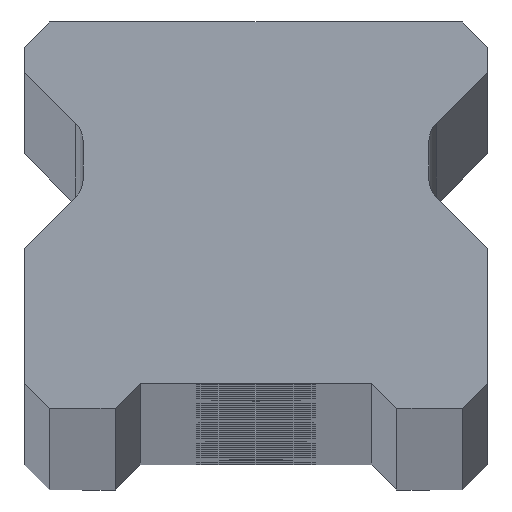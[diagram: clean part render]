
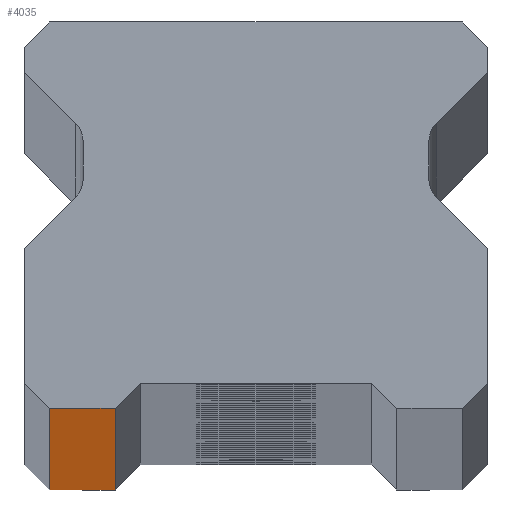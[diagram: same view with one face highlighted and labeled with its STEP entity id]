
A CAD part, top view. The second image highlights one B-rep face of the part: STEP entity #4035.
In plain terms, the highlighted planar face has unit normal (0, -1, 0).
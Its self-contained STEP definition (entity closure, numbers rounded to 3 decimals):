
#103 = LINE ( 'NONE', #6727, #3410 ) ;
#140 = AXIS2_PLACEMENT_3D ( 'NONE', #7231, #3501, #5404 ) ;
#248 = ORIENTED_EDGE ( 'NONE', *, *, #1485, .T. ) ;
#576 = CARTESIAN_POINT ( 'NONE',  ( 11.5, 0., -1160. ) ) ;
#764 = VERTEX_POINT ( 'NONE', #1985 ) ;
#1414 = VERTEX_POINT ( 'NONE', #7947 ) ;
#1485 = EDGE_CURVE ( 'NONE', #5579, #764, #103, .T. ) ;
#1985 = CARTESIAN_POINT ( 'NONE',  ( -7., 0., 1160. ) ) ;
#2142 = ORIENTED_EDGE ( 'NONE', *, *, #4745, .T. ) ;
#2337 = CARTESIAN_POINT ( 'NONE',  ( 11.5, 0., 1160. ) ) ;
#2376 = ORIENTED_EDGE ( 'NONE', *, *, #3579, .T. ) ;
#2405 = LINE ( 'NONE', #576, #6585 ) ;
#3237 = CARTESIAN_POINT ( 'NONE',  ( -10.25, 0., 1160. ) ) ;
#3410 = VECTOR ( 'NONE', #6808, 1000. ) ;
#3501 = DIRECTION ( 'NONE',  ( 0., 1., 0. ) ) ;
#3579 = EDGE_CURVE ( 'NONE', #1414, #5579, #2405, .T. ) ;
#3824 = VERTEX_POINT ( 'NONE', #3237 ) ;
#3836 = DIRECTION ( 'NONE',  ( 0., 0., -1. ) ) ;
#4035 = ADVANCED_FACE ( 'NONE', ( #6197 ), #5432, .F. ) ;
#4152 = DIRECTION ( 'NONE',  ( 1., 0., 0. ) ) ;
#4233 = VECTOR ( 'NONE', #3836, 1000. ) ;
#4277 = VECTOR ( 'NONE', #4152, 1000. ) ;
#4436 = CARTESIAN_POINT ( 'NONE',  ( -10.25, 0., 1160. ) ) ;
#4745 = EDGE_CURVE ( 'NONE', #3824, #1414, #4914, .T. ) ;
#4914 = LINE ( 'NONE', #4436, #4233 ) ;
#5404 = DIRECTION ( 'NONE',  ( -1., 0., 0. ) ) ;
#5432 = PLANE ( 'NONE',  #140 ) ;
#5500 = DIRECTION ( 'NONE',  ( 1., 0., 0. ) ) ;
#5579 = VERTEX_POINT ( 'NONE', #8019 ) ;
#5966 = ORIENTED_EDGE ( 'NONE', *, *, #6423, .F. ) ;
#6197 = FACE_OUTER_BOUND ( 'NONE', #7139, .T. ) ;
#6423 = EDGE_CURVE ( 'NONE', #3824, #764, #7299, .T. ) ;
#6585 = VECTOR ( 'NONE', #5500, 1000. ) ;
#6727 = CARTESIAN_POINT ( 'NONE',  ( -7., 0., -1160. ) ) ;
#6808 = DIRECTION ( 'NONE',  ( 0., 0., 1. ) ) ;
#7139 = EDGE_LOOP ( 'NONE', ( #2376, #248, #5966, #2142 ) ) ;
#7231 = CARTESIAN_POINT ( 'NONE',  ( 11.5, 0., 1160. ) ) ;
#7299 = LINE ( 'NONE', #2337, #4277 ) ;
#7947 = CARTESIAN_POINT ( 'NONE',  ( -10.25, 0., -1160. ) ) ;
#8019 = CARTESIAN_POINT ( 'NONE',  ( -7., 0., -1160. ) ) ;
